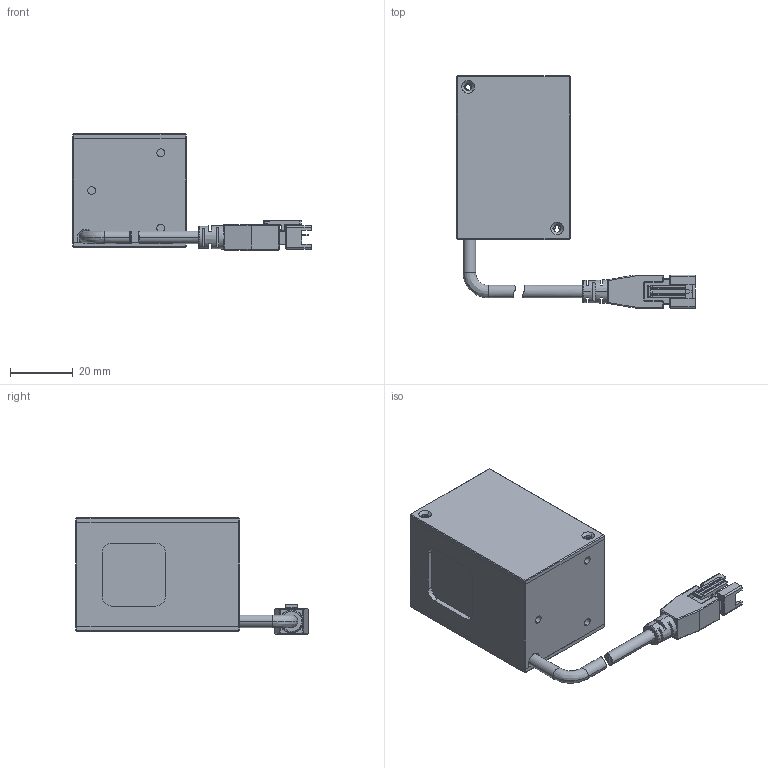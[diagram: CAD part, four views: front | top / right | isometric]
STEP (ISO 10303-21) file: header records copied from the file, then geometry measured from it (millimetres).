
FILE_DESCRIPTION (( 'STEP AP203' ), '1' );
FILE_NAME ('CRT-2COL30-¼òÒ×3DÍ¼.STEP', '2022-01-07T06:17:57', ( 'Admin' ), ( '' ), 'SwSTEP 2.0', 'SolidWorks 2018', '' );
FILE_SCHEMA (( 'CONFIG_CONTROL_DESIGN' ));
Length unit declared in the file: millimetre
Products named in the file (1): CRT-2COL30-潠眢3D芞
Bounding box: 75.8 x 73.75 x 36.9 mm (x, y, z)
Surface area: 19247.2 mm2 (no closed solid volume)
Topology: 0 solids, 12 shells, 315 faces, 982 edges, 667 vertices
Faces by surface type: plane 187, cylinder 89, bspline 28, cone 11
Entity records: 11403 total; most frequent: CARTESIAN_POINT 2782, DIRECTION 1757, ORIENTED_EDGE 1686, EDGE_CURVE 972, VERTEX_POINT 667, LINE 663, VECTOR 663, AXIS2_PLACEMENT_3D 547
